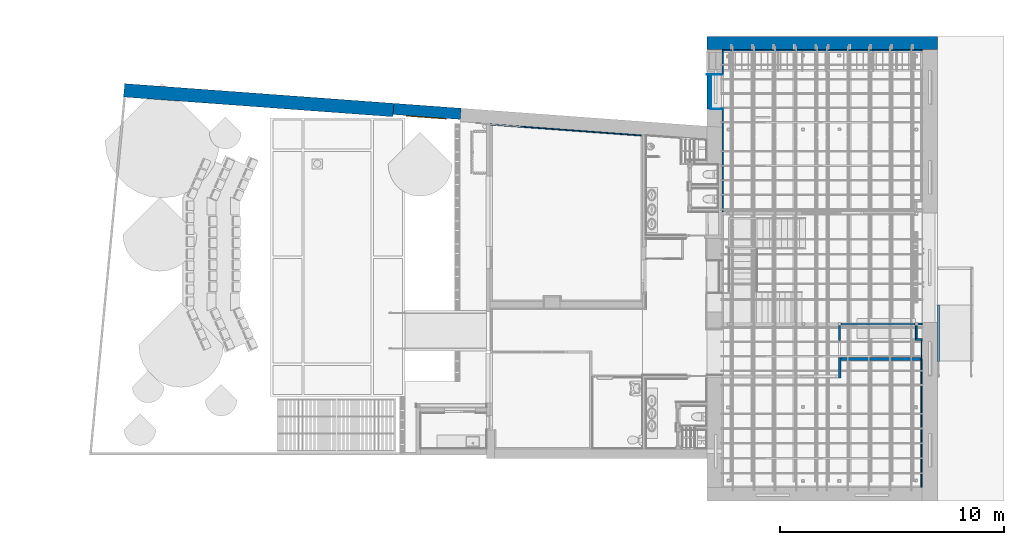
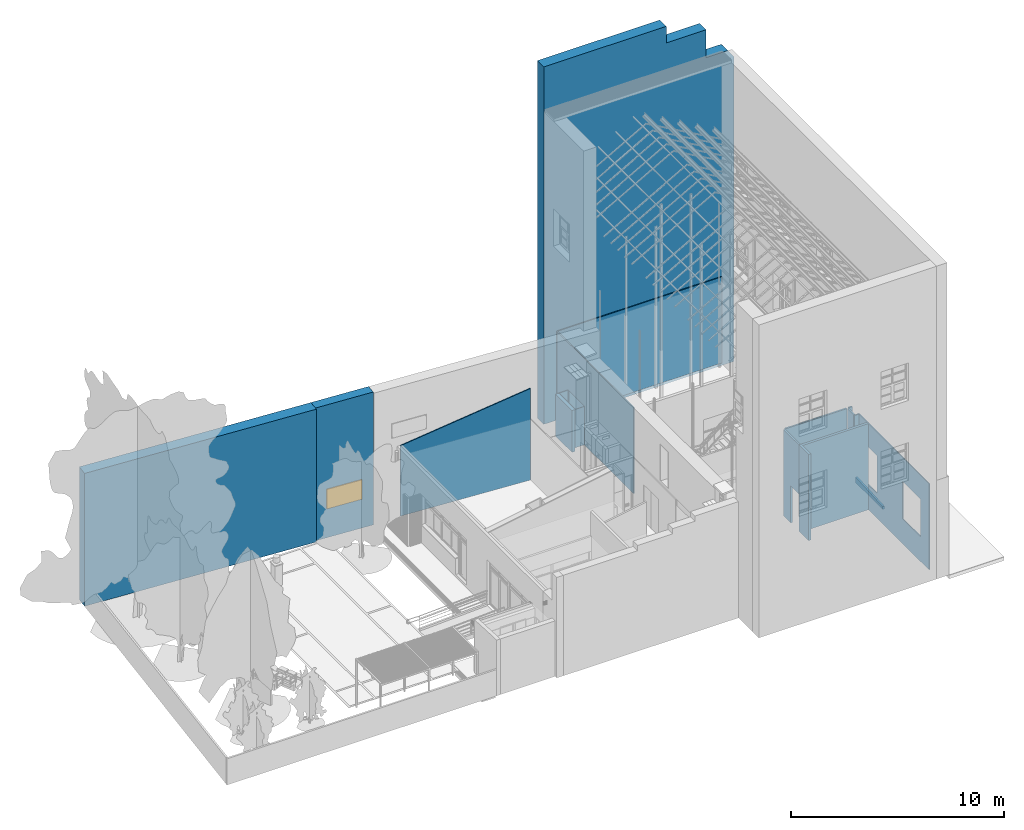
# One storey, part 40 of 75: 20 walls, 1 window, 8 openings.
"""IFC2X3 building model written with IfcOpenShell, lengths in metres."""

from ifc_helpers import new_model, entity, si_unit, converted_unit, derived_unit, direction, frame, frame_2d, origin, place, context, subcontext, project, spatial, polyline, rectangle, outline, extrude, clip, halfspace, bounded_halfspace, source, transform, mapped, material, material_list, layer, layer_set, layer_usage, type_object, type_shapes, element, fill, save


model = new_model("IFC2X3")

# Units and contexts
model_context = context("Model", 3, precision=1e-05, world=origin(), true_north=direction((6.12303176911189e-17, 1.0)))
body_context = subcontext(model_context, "Body", "Model", "MODEL_VIEW")
ifc_project = project(units=[si_unit("LENGTHUNIT", "METRE"), si_unit("AREAUNIT", "SQUARE_METRE"), si_unit("VOLUMEUNIT", "CUBIC_METRE"), converted_unit("PLANEANGLEUNIT", "DEGREE", entity("IfcRatioMeasure", 0.0174532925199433), si_unit("PLANEANGLEUNIT", "RADIAN"), dimensions=[0, 0, 0, 0, 0, 0, 0]), si_unit("MASSUNIT", "GRAM", prefix="KILO"), derived_unit("MASSDENSITYUNIT", [(si_unit("MASSUNIT", "GRAM", prefix="KILO"), 1), (si_unit("LENGTHUNIT", "METRE"), -3)]), derived_unit("MOMENTOFINERTIAUNIT", [(si_unit("LENGTHUNIT", "METRE"), 4)]), si_unit("TIMEUNIT", "SECOND"), si_unit("FREQUENCYUNIT", "HERTZ"), si_unit("THERMODYNAMICTEMPERATUREUNIT", "DEGREE_CELSIUS"), derived_unit("THERMALTRANSMITTANCEUNIT", [(si_unit("MASSUNIT", "GRAM", prefix="KILO"), 1), (si_unit("THERMODYNAMICTEMPERATUREUNIT", "KELVIN"), -1), (si_unit("TIMEUNIT", "SECOND"), -3)]), derived_unit("VOLUMETRICFLOWRATEUNIT", [(si_unit("LENGTHUNIT", "METRE"), 3), (si_unit("TIMEUNIT", "SECOND"), -1)]), si_unit("ELECTRICCURRENTUNIT", "AMPERE"), si_unit("ELECTRICVOLTAGEUNIT", "VOLT"), si_unit("POWERUNIT", "WATT"), si_unit("FORCEUNIT", "NEWTON", prefix="KILO"), si_unit("ILLUMINANCEUNIT", "LUX"), si_unit("LUMINOUSFLUXUNIT", "LUMEN"), si_unit("LUMINOUSINTENSITYUNIT", "CANDELA"), derived_unit("USERDEFINED", [(si_unit("MASSUNIT", "GRAM", prefix="KILO"), -1), (si_unit("LENGTHUNIT", "METRE"), -2), (si_unit("TIMEUNIT", "SECOND"), 3), (si_unit("LUMINOUSFLUXUNIT", "LUMEN"), 1)]), derived_unit("LINEARVELOCITYUNIT", [(si_unit("LENGTHUNIT", "METRE"), 1), (si_unit("TIMEUNIT", "SECOND"), -1)]), si_unit("PRESSUREUNIT", "PASCAL"), derived_unit("USERDEFINED", [(si_unit("LENGTHUNIT", "METRE"), -2), (si_unit("MASSUNIT", "GRAM", prefix="KILO"), 1), (si_unit("TIMEUNIT", "SECOND"), -2)]), derived_unit("LINEARFORCEUNIT", [(si_unit("MASSUNIT", "GRAM", prefix="KILO"), 1), (si_unit("LENGTHUNIT", "METRE"), 1), (si_unit("TIMEUNIT", "SECOND"), -2), (si_unit("LENGTHUNIT", "METRE"), -1)]), derived_unit("PLANARFORCEUNIT", [(si_unit("MASSUNIT", "GRAM", prefix="KILO"), 1), (si_unit("LENGTHUNIT", "METRE"), 1), (si_unit("TIMEUNIT", "SECOND"), -2), (si_unit("LENGTHUNIT", "METRE"), -2)])], contexts=[model_context])

# Site, building, storey
site_placement = place(None, origin())
site = spatial("IfcSite", under=ifc_project, at=site_placement, Name="Superficie", CompositionType="ELEMENT")
building_placement = place(site_placement, origin())
building = spatial("IfcBuilding", under=site, at=building_placement, Name="Telegestiones", CompositionType="ELEMENT")
storey_placement = place(building_placement, origin())
storey = spatial("IfcBuildingStorey", under=building, at=storey_placement, Name="Nivel 0_NPT", CompositionType="ELEMENT", Elevation=0.0)

# Wall
ifc_material_1 = material(Name="Muro por defecto")
ifc_layer_1 = layer(ifc_material_1, 0.6)
ifc_layer_set_1 = layer_set([ifc_layer_1], Name="Muro básico:ARQ-MU-EX-60-Gen")
ifc_layer_usage_1 = layer_usage(ifc_layer_set_1, "AXIS2", "NEGATIVE", 0.3)
wall_type_1 = type_object("IfcWallType", Name="Muro básico:ARQ-MU-EX-60-Gen", PredefinedType="STANDARD", material=ifc_layer_set_1)
wall_1_placement = place(storey_placement, frame((-20.6887632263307, 11.9310186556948, -0.2), z_axis=(0.0, 0.0, 1.0), x_axis=(0.99732797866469, -0.0730541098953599, 0.0)))
element("IfcWallStandardCase", 1, at=wall_1_placement, inside=storey, type_object=wall_type_1, material=ifc_layer_usage_1, Name="Muro básico:ARQ-MU-EX-60-Gen", ObjectType="Muro básico:ARQ-MU-EX-60-Gen", context=body_context, shape_type="SweptSolid", body=[
    extrude(outline(polyline([(-0.240000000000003, -7.21836923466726), (0.359999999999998, -7.21836923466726), (0.360000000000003, 4.83671755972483), (-0.239999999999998, 4.85002274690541), (-0.239999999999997, 4.74999816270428), (-0.240000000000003, -7.21836923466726)])), frame((4.8500227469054, -0.0599999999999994, 0.0), z_axis=(0.0, 0.0, 1.0), x_axis=(0.0, 1.0, 0.0)), (0.0, 0.0, 1.0), 7.6),
])

# Wall, openings
ifc_material_2 = material(Name="Albañilería expuesta")
ifc_layer_2 = layer(ifc_material_2, 0.12)
ifc_layer_3 = layer(ifc_material_1, 0.48)
ifc_layer_set_2 = layer_set([ifc_layer_2, ifc_layer_3], Name="Muro básico:ARQ-MU-EX-60-Lad")
ifc_layer_usage_2 = layer_usage(ifc_layer_set_2, "AXIS2", "NEGATIVE", 0.3)
wall_type_2 = type_object("IfcWallType", Name="Muro básico:ARQ-MU-EX-60-Lad", PredefinedType="STANDARD", material=ifc_layer_set_2)
wall_2_placement = place(storey_placement, frame((5.35428977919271, 14.0436072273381, -0.199999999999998)))
wall_2 = element("IfcWallStandardCase", 2, at=wall_2_placement, inside=storey, type_object=wall_type_2, material=ifc_layer_usage_2, Name="Muro básico:ARQ-MU-EX-60-Lad", ObjectType="Muro básico:ARQ-MU-EX-60-Lad", context=body_context, shape_type="Clipping", body=[
    clip(clip(extrude(rectangle(XDim=10.2905228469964, YDim=0.599999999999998, at=frame_2d((5.1452614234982, 0.0), x_axis=(-1.0, 0.0))), origin(), (0.0, 0.0, 1.0), 20.45), halfspace(frame((8.78052284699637, 0.0, 19.5), z_axis=(0.404163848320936, 0.0, 0.914686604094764), x_axis=(0.0, 1.0, 0.0)), False)), halfspace(frame((9.95052284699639, 0.0, 17.9), z_axis=(0.807206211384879, 0.0, 0.590269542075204), x_axis=(0.0, 1.0, 0.0)), False)),
])
opening_1_placement = place(wall_2_placement, origin())
element("IfcOpeningElement", 3, at=opening_1_placement, cuts=wall_2, Name="Muro básico:ARQ-MU-EX-60-Lad", ObjectType="Opening", context=body_context, shape_type="SweptSolid", body=[
    extrude(outline(polyline([(-0.890920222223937, -0.314810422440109), (1.09122508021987, -0.31481042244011), (-0.200304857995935, 0.629620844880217), (-0.890920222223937, -0.314810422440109)])), frame((9.17052284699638, 0.299999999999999, 18.4333333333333), z_axis=(0.0, -1.0, 0.0), x_axis=(-0.590269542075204, 0.0, 0.807206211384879)), (0.0, 0.0, 1.0), 0.6),
])
opening_2_placement = place(wall_2_placement, origin())
element("IfcOpeningElement", 4, at=opening_2_placement, cuts=wall_2, Name="Muro básico:ARQ-MU-EX-60-Lad", ObjectType="Opening", context=body_context, shape_type="SweptSolid", body=[
    extrude(outline(polyline([(-1.43903601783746, -0.289650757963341), (0.911495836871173, -0.28965075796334), (0.527540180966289, 0.579301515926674), (-1.43903601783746, -0.289650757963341)])), frame((7.34718951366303, 0.299999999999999, 19.8166666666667), z_axis=(0.0, -1.0, 0.0), x_axis=(-0.914686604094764, 0.0, 0.404163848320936)), (0.0, 0.0, 1.0), 0.6),
])

# Walls
ifc_layer_4 = layer(ifc_material_2, 0.17)
ifc_layer_set_3 = layer_set([ifc_layer_4], Name="Muro básico:ARQ-MU-EX-17-Lad")
ifc_layer_usage_3 = layer_usage(ifc_layer_set_3, "AXIS2", "NEGATIVE", 0.085)
wall_type_3 = type_object("IfcWallType", Name="Muro básico:ARQ-MU-EX-17-Lad", PredefinedType="STANDARD", material=ifc_layer_set_3)
wall_3_placement = place(storey_placement, frame((5.43928977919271, 12.641107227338, -0.2), z_axis=(0.0, 0.0, 1.0), x_axis=(0.0, -1.0, 0.0)))
element("IfcWallStandardCase", 5, at=wall_3_placement, inside=storey, type_object=wall_type_3, material=ifc_layer_usage_3, Name="Muro básico:ARQ-MU-EX-17-Lad", ObjectType="Muro básico:ARQ-MU-EX-17-Lad", context=body_context, shape_type="SweptSolid", body=[
    extrude(rectangle(XDim=1.54500000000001, YDim=0.17, at=frame_2d((0.772500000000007, -1.38777878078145e-17), x_axis=(-1.0, 0.0))), origin(), (0.0, 0.0, 1.0), 2.4),
])
ifc_layer_5 = layer(ifc_material_1, 0.1)
ifc_layer_set_4 = layer_set([ifc_layer_5], Name="Muro básico:ARQ-MU-EX-10-Gen")
ifc_layer_usage_4 = layer_usage(ifc_layer_set_4, "AXIS2", "NEGATIVE", 0.05)
wall_type_4 = type_object("IfcWallType", Name="Muro básico:ARQ-MU-EX-10-Gen", PredefinedType="STANDARD", material=ifc_layer_set_4)
wall_4_placement = place(storey_placement, frame((15.6948126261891, -0.193867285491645, -0.22), z_axis=(0.0, 0.0, 1.0), x_axis=(0.0, 1.0, 0.0)))
element("IfcWallStandardCase", 6, at=wall_4_placement, inside=storey, type_object=wall_type_4, material=ifc_layer_usage_4, Name="Muro básico:ARQ-MU-EX-10-Gen", ObjectType="Muro básico:ARQ-MU-EX-10-Gen", context=body_context, shape_type="Clipping", body=[
    clip(extrude(rectangle(XDim=2.52999999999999, YDim=0.0999999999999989, at=frame_2d((1.265, 4.9960036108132e-16), x_axis=(-1.0, 0.0))), origin(), (0.0, 0.0, 1.0), 0.32), halfspace(frame((0.0, -0.050000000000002, 0.16), z_axis=(-0.0631150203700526, 0.0, 0.998006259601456), x_axis=(0.0, 1.0, 0.0)), False)),
])
ifc_material_3 = material(Name="Placa yeso entera")
ifc_layer_6 = layer(ifc_material_3, 0.015)
ifc_layer_7 = layer(ifc_material_3, 0.015)
ifc_material_4 = material(Name="Estructura de Hierro Galvanizado")
ifc_layer_8 = layer(ifc_material_4, 0.07)
ifc_layer_9 = layer(ifc_material_3, 0.015)
ifc_layer_10 = layer(ifc_material_3, 0.015)
ifc_layer_set_5 = layer_set([ifc_layer_6, ifc_layer_7, ifc_layer_8, ifc_layer_9, ifc_layer_10], Name="Muro básico:ARQ-MU-IN-13-Ye-T4")
ifc_layer_usage_5 = layer_usage(ifc_layer_set_5, "AXIS2", "NEGATIVE", 0.065)
wall_type_5 = type_object("IfcWallType", Name="Muro básico:ARQ-MU-IN-13-Ye-T4", PredefinedType="STANDARD", material=ifc_layer_set_5)
wall_5_placement = place(storey_placement, frame((11.2888493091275, -0.00139137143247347, -0.0199999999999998), z_axis=(0.0, 0.0, 1.0), x_axis=(0.0, -1.0, 0.0)))
element("IfcWallStandardCase", 7, at=wall_5_placement, inside=storey, type_object=wall_type_5, material=ifc_layer_usage_5, Name="Muro básico:ARQ-MU-IN-13-Ye-T4", ObjectType="Muro básico:ARQ-MU-IN-13-Ye-T4", context=body_context, shape_type="SweptSolid", body=[
    extrude(rectangle(XDim=0.910071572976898, YDim=0.130000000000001, at=frame_2d((0.455035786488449, 8.32667268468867e-17), x_axis=(-1.0, 0.0))), origin(), (0.0, 0.0, 1.0), 4.93),
])
ifc_layer_usage_6 = layer_usage(ifc_layer_set_5, "AXIS2", "NEGATIVE", 0.065)
wall_6_placement = place(storey_placement, frame((11.3538493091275, -0.0663913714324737, -0.0199999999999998)))
element("IfcWallStandardCase", 8, at=wall_6_placement, inside=storey, type_object=wall_type_5, material=ifc_layer_usage_6, Name="Muro básico:ARQ-MU-IN-13-Ye-T4", ObjectType="Muro básico:ARQ-MU-IN-13-Ye-T4", context=body_context, shape_type="SweptSolid", body=[
    extrude(rectangle(XDim=3.56096331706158, YDim=0.13, at=frame_2d((1.78048165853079, 6.93889390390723e-18), x_axis=(-1.0, 0.0))), origin(), (0.0, 0.0, 1.0), 4.93),
])

# Wall, opening
ifc_layer_11 = layer(ifc_material_3, 0.01)
ifc_layer_12 = layer(ifc_material_4, 0.07)
ifc_layer_13 = layer(ifc_material_3, 0.01)
ifc_layer_set_6 = layer_set([ifc_layer_11, ifc_layer_12, ifc_layer_13], Name="Muro básico:ARQ-MU-IN-9-Ye-T2")
ifc_layer_usage_7 = layer_usage(ifc_layer_set_6, "AXIS2", "NEGATIVE", 0.045)
wall_type_6 = type_object("IfcWallType", Name="Muro básico:ARQ-MU-IN-9-Ye-T2", PredefinedType="STANDARD", material=ifc_layer_set_6)
wall_7_placement = place(storey_placement, frame((11.2688493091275, -0.00139137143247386, -0.0199999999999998), z_axis=(0.0, 0.0, 1.0), x_axis=(0.0, 1.0, 0.0)))
wall_7 = element("IfcWallStandardCase", 9, at=wall_7_placement, inside=storey, type_object=wall_type_6, material=ifc_layer_usage_7, Name="Muro básico:ARQ-MU-IN-9-Ye-T2", ObjectType="Muro básico:ARQ-MU-IN-9-Ye-T2", context=body_context, shape_type="SweptSolid", body=[
    extrude(rectangle(XDim=1.43599859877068, YDim=0.0900000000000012, at=frame_2d((0.717999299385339, 0.0), x_axis=(-1.0, 0.0))), origin(), (0.0, 0.0, 1.0), 4.93),
])
opening_3_placement = place(wall_7_placement, origin())
element("IfcOpeningElement", 10, at=opening_3_placement, cuts=wall_7, Name="Muro básico:ARQ-MU-IN-9-Ye-T2", ObjectType="Opening", context=body_context, shape_type="SweptSolid", body=[
    extrude(rectangle(XDim=2.12, YDim=0.828639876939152, at=frame_2d((2.22044604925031e-16, 2.22044604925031e-16), x_axis=(1.0, 0.0))), frame((0.349319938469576, 0.0450000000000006, 1.06), z_axis=(0.0, -1.0, 0.0), x_axis=(0.0, 0.0, -1.0)), (0.0, 0.0, 1.0), 0.0900000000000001),
])

# Walls
ifc_layer_usage_8 = layer_usage(ifc_layer_set_6, "AXIS2", "NEGATIVE", 0.045)
wall_8_placement = place(storey_placement, frame((11.3338126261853, 1.4845940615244, 2.1)))
element("IfcWallStandardCase", 11, at=wall_8_placement, inside=storey, type_object=wall_type_6, material=ifc_layer_usage_8, Name="Muro básico:ARQ-MU-IN-9-Ye-T2", ObjectType="Muro básico:ARQ-MU-IN-9-Ye-T2", context=body_context, shape_type="SweptSolid", body=[
    extrude(rectangle(XDim=3.32105815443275, YDim=0.0900000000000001, at=frame_2d((1.66052907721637, -6.59194920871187e-17), x_axis=(-1.0, 0.0))), origin(), (0.0, 0.0, 1.0), 2.81),
])
ifc_layer_14 = layer(ifc_material_3, 0.01)
ifc_layer_15 = layer(ifc_material_4, 0.07)
ifc_layer_set_7 = layer_set([ifc_layer_14, ifc_layer_15], Name="Muro básico:ARQ-MU-IN-8-Ye-T3")
ifc_layer_usage_9 = layer_usage(ifc_layer_set_7, "AXIS2", "POSITIVE", -0.04)
wall_type_7 = type_object("IfcWallType", Name="Muro básico:ARQ-MU-IN-8-Ye-T3", PredefinedType="STANDARD", material=ifc_layer_set_7)
wall_9_placement = place(storey_placement, frame((14.7048547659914, 1.42459406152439, -0.0199999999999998), z_axis=(0.0, 0.0, 1.0), x_axis=(0.0, -1.0, 0.0)))
element("IfcWallStandardCase", 12, at=wall_9_placement, inside=storey, type_object=wall_type_7, material=ifc_layer_usage_9, Name="Muro básico:ARQ-MU-IN-8-Ye-T3", ObjectType="Muro básico:ARQ-MU-IN-8-Ye-T3", context=body_context, shape_type="SweptSolid", body=[
    extrude(rectangle(XDim=0.582345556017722, YDim=0.0799999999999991, at=frame_2d((0.291172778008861, 0.0), x_axis=(-1.0, 0.0))), origin(), (0.0, 0.0, 1.0), 4.93),
])
ifc_layer_usage_10 = layer_usage(ifc_layer_set_7, "AXIS2", "POSITIVE", -0.04)
wall_10_placement = place(storey_placement, frame((14.6648547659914, 0.802248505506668, -0.0199999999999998)))
element("IfcWallStandardCase", 13, at=wall_10_placement, inside=storey, type_object=wall_type_7, material=ifc_layer_usage_10, Name="Muro básico:ARQ-MU-IN-8-Ye-T3", ObjectType="Muro básico:ARQ-MU-IN-8-Ye-T3", context=body_context, shape_type="SweptSolid", body=[
    extrude(rectangle(XDim=0.299957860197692, YDim=0.08, at=frame_2d((0.149978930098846, 6.93889390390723e-18), x_axis=(-1.0, 0.0))), origin(), (0.0, 0.0, 1.0), 4.93),
])
ifc_layer_usage_11 = layer_usage(ifc_layer_set_7, "AXIS2", "NEGATIVE", 0.04)
wall_11_placement = place(storey_placement, frame((14.7648707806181, 1.49210722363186, -0.0199999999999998)))
element("IfcWallStandardCase", 14, at=wall_11_placement, inside=storey, type_object=wall_type_7, material=ifc_layer_usage_11, Name="Muro básico:ARQ-MU-IN-8-Ye-T3", ObjectType="Muro básico:ARQ-MU-IN-8-Ye-T3", context=body_context, shape_type="SweptSolid", body=[
    extrude(rectangle(XDim=0.19994184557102, YDim=0.0800000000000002, at=frame_2d((0.0999709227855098, -6.93889390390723e-18), x_axis=(-1.0, 0.0))), origin(), (0.0, 0.0, 1.0), 4.93),
])
ifc_layer_16 = layer(ifc_material_3, 0.012)
ifc_layer_17 = layer(ifc_material_4, 0.038)
ifc_layer_set_8 = layer_set([ifc_layer_16, ifc_layer_17], Name="Muro básico:ARQ-RE-IN-5-Ye-M2")
ifc_layer_usage_12 = layer_usage(ifc_layer_set_8, "AXIS2", "NEGATIVE", 0.025)
wall_type_8 = type_object("IfcWallType", Name="Muro básico:ARQ-RE-IN-5-Ye-M2", PredefinedType="STANDARD", material=ifc_layer_set_8)
wall_12_placement = place(storey_placement, frame((2.41923197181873, 9.91300686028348, -0.0199999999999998), z_axis=(0.0, 0.0, 1.0), x_axis=(-0.997331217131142, 0.0730098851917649, 0.0)))
element("IfcWallStandardCase", 15, at=wall_12_placement, inside=storey, type_object=wall_type_8, material=ifc_layer_usage_12, Name="Muro básico:ARQ-RE-IN-5-Ye-M2", ObjectType="Muro básico:ARQ-RE-IN-5-Ye-M2", context=body_context, shape_type="Clipping", body=[
    clip(extrude(outline(polyline([(6.77432379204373, -0.0249999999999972), (6.77066352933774, 0.0250000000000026), (6.67039593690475, 0.0250000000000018), (0.0, 0.0250000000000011), (0.0036602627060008, -0.0249999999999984), (6.77432379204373, -0.0249999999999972)])), origin(), (0.0, 0.0, 1.0), 5.24646693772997), bounded_halfspace(frame((0.00366026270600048, -0.0249999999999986, 5.24646693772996), z_axis=(0.176680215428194, 0.0129339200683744, 0.984183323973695), x_axis=(-0.0730098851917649, 0.997331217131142, 0.0)), False, frame((0.00366026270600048, -0.0249999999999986, 5.24646693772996)), polyline([(0.0, 0.0), (6.77066352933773, 0.0), (6.76700326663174, 0.0499999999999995), (6.66673567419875, 0.0500000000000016), (-0.00366026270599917, 0.0499999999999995), (0.0, 0.0)]))),
])

# Wall, openings
ifc_layer_usage_13 = layer_usage(ifc_layer_set_8, "AXIS2", "NEGATIVE", 0.025)
wall_13_placement = place(storey_placement, frame((14.9398126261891, -5.80636712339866, -0.0199999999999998), z_axis=(0.0, 0.0, 1.0), x_axis=(0.0, 1.0, 0.0)))
wall_13 = element("IfcWallStandardCase", 16, at=wall_13_placement, inside=storey, type_object=wall_type_8, material=ifc_layer_usage_13, Name="Muro básico:ARQ-RE-IN-5-Ye-M2", ObjectType="Muro básico:ARQ-RE-IN-5-Ye-M2", context=body_context, shape_type="SweptSolid", body=[
    extrude(rectangle(XDim=5.73997575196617, YDim=0.0500000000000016, at=frame_2d((2.86998787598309, 6.93889390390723e-17), x_axis=(-1.0, 0.0))), origin(), (0.0, 0.0, 1.0), 4.93),
])
opening_4_placement = place(wall_13_placement, origin())
element("IfcOpeningElement", 17, at=opening_4_placement, cuts=wall_13, Name="Muro básico:ARQ-RE-IN-5-Ye-M2", ObjectType="Opening", context=body_context, shape_type="SweptSolid", body=[
    extrude(rectangle(XDim=2.15, YDim=1.65000000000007, at=frame_2d((1.11022302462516e-16, 0.0), x_axis=(1.0, 0.0))), frame((1.64497435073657, 0.0250000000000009, 2.49499999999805), z_axis=(0.0, -1.0, 0.0), x_axis=(0.0, 0.0, 1.0)), (0.0, 0.0, 1.0), 0.05),
])
opening_5_placement = place(wall_13_placement, origin())
element("IfcOpeningElement", 18, at=opening_5_placement, cuts=wall_13, Name="Muro básico:ARQ-RE-IN-5-Ye-M2", ObjectType="Opening", context=body_context, shape_type="SweptSolid", body=[
    extrude(rectangle(XDim=2.15, YDim=0.840001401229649, at=frame_2d((-6.66133814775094e-16, 0.0), x_axis=(1.0, 0.0))), frame((5.31997505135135, 0.0250000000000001, 2.49499999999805), z_axis=(0.0, -1.0, 0.0), x_axis=(0.0, 0.0, 1.0)), (0.0, 0.0, 1.0), 0.05),
])

# Wall, opening
ifc_layer_usage_14 = layer_usage(ifc_layer_set_8, "AXIS2", "NEGATIVE", 0.025)
wall_14_placement = place(storey_placement, frame((14.9398126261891, -0.0663913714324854, -0.0199999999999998), z_axis=(0.0, 0.0, 1.0), x_axis=(0.0, 1.0, 0.0)))
wall_14 = element("IfcWallStandardCase", 19, at=wall_14_placement, inside=storey, type_object=wall_type_8, material=ifc_layer_usage_14, Name="Muro básico:ARQ-RE-IN-5-Ye-M2", ObjectType="Muro básico:ARQ-RE-IN-5-Ye-M2", context=body_context, shape_type="SweptSolid", body=[
    extrude(rectangle(XDim=0.828639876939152, YDim=0.0500000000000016, at=frame_2d((0.414319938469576, 8.84708972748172e-17), x_axis=(-1.0, 0.0))), origin(), (0.0, 0.0, 1.0), 4.93),
])
opening_6_placement = place(wall_14_placement, origin())
element("IfcOpeningElement", 20, at=opening_6_placement, cuts=wall_14, Name="Muro básico:ARQ-RE-IN-5-Ye-M2", ObjectType="Opening", context=body_context, shape_type="SweptSolid", body=[
    extrude(rectangle(XDim=2.15, YDim=0.809998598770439, at=frame_2d((-2.77555756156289e-17, -2.22044604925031e-16), x_axis=(0.0, 1.0))), frame((0.404999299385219, 0.0250000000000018, 2.49499999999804), z_axis=(0.0, -1.0, 0.0), x_axis=(1.0, 0.0, 0.0)), (0.0, 0.0, 1.0), 0.05),
])

# Wall
ifc_layer_usage_15 = layer_usage(ifc_layer_set_8, "AXIS2", "POSITIVE", -0.025)
wall_15_placement = place(storey_placement, frame((6.03428977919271, 13.7186072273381, -0.0199999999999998)))
element("IfcWallStandardCase", 21, at=wall_15_placement, inside=storey, type_object=wall_type_8, material=ifc_layer_usage_15, Name="Muro básico:ARQ-RE-IN-5-Ye-M2", ObjectType="Muro básico:ARQ-RE-IN-5-Ye-M2", context=body_context, shape_type="SweptSolid", body=[
    extrude(rectangle(XDim=8.93052284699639, YDim=0.0500000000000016, at=frame_2d((4.46526142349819, 0.0), x_axis=(-1.0, 0.0))), origin(), (0.0, 0.0, 1.0), 4.93),
])

# Wall, opening
ifc_layer_usage_16 = layer_usage(ifc_layer_set_8, "AXIS2", "NEGATIVE", 0.025)
wall_16_placement = place(storey_placement, frame((6.05928977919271, 13.6936072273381, -0.0199999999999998), z_axis=(0.0, 0.0, 1.0), x_axis=(0.0, -1.0, 0.0)))
wall_16 = element("IfcWallStandardCase", 22, at=wall_16_placement, inside=storey, type_object=wall_type_8, material=ifc_layer_usage_16, Name="Muro básico:ARQ-RE-IN-5-Ye-M2", ObjectType="Muro básico:ARQ-RE-IN-5-Ye-M2", context=body_context, shape_type="SweptSolid", body=[
    extrude(rectangle(XDim=7.17799999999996, YDim=0.0499999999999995, at=frame_2d((3.58899999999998, 9.36750677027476e-17), x_axis=(-1.0, 0.0))), origin(), (0.0, 0.0, 1.0), 4.93),
])
opening_7_placement = place(wall_16_placement, origin())
element("IfcOpeningElement", 23, at=opening_7_placement, cuts=wall_16, Name="Muro básico:ARQ-RE-IN-5-Ye-M2", ObjectType="Opening", context=body_context, shape_type="SweptSolid", body=[
    extrude(rectangle(XDim=2.22, YDim=1.54500000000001, at=frame_2d((1.11022302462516e-15, 0.0), x_axis=(0.0, 1.0))), frame((1.82500000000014, 0.0249999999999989, 1.11), z_axis=(0.0, -1.0, 0.0), x_axis=(1.0, 0.0, 0.0)), (0.0, 0.0, 1.0), 0.05),
])

# Walls
ifc_layer_18 = layer(ifc_material_3, 0.012)
ifc_layer_19 = layer(ifc_material_4, 0.013)
ifc_layer_set_9 = layer_set([ifc_layer_18, ifc_layer_19], Name="Muro básico:ARQ-RE-IN-2-Ye-M4")
ifc_layer_usage_17 = layer_usage(ifc_layer_set_9, "AXIS2", "POSITIVE", -0.0125)
wall_type_9 = type_object("IfcWallType", Name="Muro básico:ARQ-RE-IN-2-Ye-M4", PredefinedType="STANDARD", material=ifc_layer_set_9)
wall_17_placement = place(storey_placement, frame((5.53678977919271, 11.0961072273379, 0.0), z_axis=(0.0, 0.0, 1.0), x_axis=(0.0, 1.0, 0.0)))
element("IfcWallStandardCase", 24, at=wall_17_placement, inside=storey, type_object=wall_type_9, material=ifc_layer_usage_17, Name="Muro básico:ARQ-RE-IN-2-Ye-M4", ObjectType="Muro básico:ARQ-RE-IN-2-Ye-M4", context=body_context, shape_type="Clipping", body=[
    clip(extrude(rectangle(XDim=1.53250000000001, YDim=0.0250000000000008, at=frame_2d((0.766250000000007, -2.51534904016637e-17), x_axis=(-1.0, 0.0))), origin(), (0.0, 0.0, 1.0), 2.2), bounded_halfspace(frame((1.53250000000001, -0.0124999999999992, 0.0), z_axis=(0.0, 0.0, 1.0), x_axis=(0.0, 1.0, 0.0)), True, frame((1.53250000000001, -0.0124999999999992, 0.0), z_axis=(0.0, 0.0, 1.0), x_axis=(0.0, 1.0, 0.0)), polyline([(0.0, 0.0), (0.0249999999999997, 0.0), (0.0250000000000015, 1.53250000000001), (0.0, 1.53250000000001), (0.0, 0.0)]))),
])
ifc_layer_usage_18 = layer_usage(ifc_layer_set_9, "AXIS2", "POSITIVE", -0.0125)
wall_18_placement = place(storey_placement, frame((5.35428977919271, 12.641107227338, -0.0199999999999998)))
element("IfcWallStandardCase", 25, at=wall_18_placement, inside=storey, type_object=wall_type_9, material=ifc_layer_usage_18, Name="Muro básico:ARQ-RE-IN-2-Ye-M4", ObjectType="Muro básico:ARQ-RE-IN-2-Ye-M4", context=body_context, shape_type="SweptSolid", body=[
    extrude(rectangle(XDim=0.680000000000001, YDim=0.0249999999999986, at=frame_2d((0.340000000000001, 2.64545330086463e-16), x_axis=(-1.0, 0.0))), origin(), (0.0, 0.0, 1.0), 2.22),
])
ifc_layer_usage_19 = layer_usage(ifc_layer_set_9, "AXIS2", "NEGATIVE", 0.0125)
wall_19_placement = place(storey_placement, frame((5.52428977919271, 11.0961072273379, 0.0)))
element("IfcWallStandardCase", 26, at=wall_19_placement, inside=storey, type_object=wall_type_9, material=ifc_layer_usage_19, Name="Muro básico:ARQ-RE-IN-2-Ye-M4", ObjectType="Muro básico:ARQ-RE-IN-2-Ye-M4", context=body_context, shape_type="Clipping", body=[
    clip(extrude(outline(polyline([(0.509999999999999, -0.0125000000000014), (0.559999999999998, -0.0125000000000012), (0.559999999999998, 0.0124999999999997), (0.0, 0.0124999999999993), (0.0, 0.0), (0.509999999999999, 0.0), (0.509999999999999, -0.0125000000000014)])), origin(), (0.0, 0.0, 1.0), 2.2), bounded_halfspace(frame((0.559999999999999, -0.0124999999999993, 0.0), z_axis=(0.0, 0.0, 1.0), x_axis=(-1.0, 0.0, 0.0)), True, frame((0.559999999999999, -0.0124999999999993, 0.0), z_axis=(0.0, 0.0, 1.0), x_axis=(-1.0, 0.0, 0.0)), polyline([(0.0, 0.0), (0.0, -0.0250000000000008), (0.559999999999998, -0.025000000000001), (0.559999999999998, -0.0125000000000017), (0.0499999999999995, -0.0125000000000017), (0.0499999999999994, 0.0), (0.0, 0.0)]))),
])

# Wall, opening, window
ifc_layer_20 = layer(ifc_material_1, 0.5)
ifc_layer_set_10 = layer_set([ifc_layer_20], Name="Muro básico:ARQ-MU-EX-50-Gen")
ifc_layer_usage_20 = layer_usage(ifc_layer_set_10, "AXIS2", "NEGATIVE", 0.25)
wall_type_10 = type_object("IfcWallType", Name="Muro básico:ARQ-MU-EX-50-Gen", PredefinedType="STANDARD", material=ifc_layer_set_10)
wall_20_placement = place(storey_placement, frame((-8.64896554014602, 11.0992394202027, -0.2), z_axis=(0.0, 0.0, 1.0), x_axis=(0.997331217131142, -0.0730098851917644, 0.0)))
wall_20 = element("IfcWallStandardCase", 27, at=wall_20_placement, inside=storey, type_object=wall_type_10, material=ifc_layer_usage_20, Name="Muro básico:ARQ-MU-EX-50-Gen", ObjectType="Muro básico:ARQ-MU-EX-50-Gen", context=body_context, shape_type="SweptSolid", body=[
    extrude(rectangle(XDim=3.00816689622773, YDim=0.499999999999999, at=frame_2d((1.50408344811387, -3.19189119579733e-16), x_axis=(-1.0, 0.0))), origin(), (0.0, 0.0, 1.0), 7.6),
])
opening_8_placement = place(wall_20_placement, frame((2.39816689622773, 0.25, 1.68)))
opening_8 = element("IfcOpeningElement", 28, at=opening_8_placement, cuts=wall_20, Name="ARQ-VE-EX-Rejilla:182x111:1", ObjectType="Opening", context=body_context, shape_type="SweptSolid", body=[
    extrude(rectangle(XDim=1.11, YDim=1.82, at=frame_2d((0.554999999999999, 0.91), x_axis=(1.0, 0.0))), frame((0.0, 0.0, 0.0), z_axis=(0.0, -1.0, 0.0), x_axis=(0.0, 0.0, 1.0)), (0.0, 0.0, 1.0), 0.5),
])
ifc_material_5 = material(Name="Revestimiento de metal")
ifc_material_6 = material(Name="Acero")
ifc_material_list_1 = material_list([ifc_material_5, ifc_material_5, ifc_material_5, ifc_material_5, ifc_material_6, ifc_material_6, ifc_material_6, ifc_material_6, ifc_material_6, ifc_material_6])
ifc_material_list_2 = material_list([ifc_material_5, ifc_material_5, ifc_material_5, ifc_material_5, ifc_material_6, ifc_material_6, ifc_material_6, ifc_material_6, ifc_material_6, ifc_material_6])
window_style = type_object("IfcWindowStyle", Name="ARQ-VE-EX-Rejilla:182x111", ConstructionType="NOTDEFINED", OperationType="NOTDEFINED", ParameterTakesPrecedence=False, Sizeable=False, material=ifc_material_list_2)
shared_shape = source(origin(), body_context, "Body", "SweptSolid", [
    extrude(rectangle(XDim=0.00499999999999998, YDim=0.834999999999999, at=frame_2d((1.69135538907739e-17, 0.0), x_axis=(1.0, 0.0))), frame((0.477500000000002, 0.53950000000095, 0.570000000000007), z_axis=(0.0, 0.0, 1.0), x_axis=(0.0, 1.0, 0.0)), (0.0, 0.0, 1.0), 0.479999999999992),
    extrude(rectangle(XDim=0.00499999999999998, YDim=0.834999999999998, at=frame_2d((1.69135538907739e-17, 0.0), x_axis=(1.0, 0.0))), frame((0.477500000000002, 0.53950000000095, 0.0600000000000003), z_axis=(0.0, 0.0, 1.0), x_axis=(0.0, 1.0, 0.0)), (0.0, 0.0, 1.0), 0.480000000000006),
    extrude(rectangle(XDim=0.00499999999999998, YDim=0.835, at=frame_2d((-1.69135538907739e-17, 2.77555756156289e-17), x_axis=(1.0, 0.0))), frame((1.3425, 0.539500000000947, 0.0600000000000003), z_axis=(0.0, 0.0, 1.0), x_axis=(0.0, 1.0, 0.0)), (0.0, 0.0, 1.0), 0.480000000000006),
    extrude(rectangle(XDim=0.00499999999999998, YDim=0.835000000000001, at=frame_2d((-1.69135538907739e-17, -2.77555756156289e-17), x_axis=(1.0, 0.0))), frame((1.3425, 0.539500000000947, 0.570000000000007), z_axis=(0.0, 0.0, 1.0), x_axis=(0.0, 1.0, 0.0)), (0.0, 0.0, 1.0), 0.479999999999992),
    extrude(outline(polyline([(0.0149999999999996, -0.0150000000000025), (0.850000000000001, -0.0150000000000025), (0.850000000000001, 0.0149999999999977), (0.0149999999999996, 0.0149999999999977), (0.0149999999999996, 0.495000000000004), (-0.0150000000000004, 0.495000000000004), (-0.0150000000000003, 0.0149999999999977), (-0.85, 0.0149999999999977), (-0.85, -0.0150000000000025), (-0.0150000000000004, -0.0150000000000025), (-0.0150000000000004, -0.494999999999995), (0.0149999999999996, -0.494999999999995), (0.0149999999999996, -0.0150000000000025)])), frame((0.910000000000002, 0.537000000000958, 0.555000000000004), z_axis=(0.0, 1.0, 0.0), x_axis=(1.0, 0.0, 0.0)), (0.0, 0.0, 1.0), 0.00500000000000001),
    extrude(outline(polyline([(-0.91, -0.554999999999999), (0.91, -0.554999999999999), (0.91, 0.554999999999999), (-0.91, 0.554999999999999), (-0.91, -0.554999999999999)]), holes=[polyline([(-0.867999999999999, -0.512999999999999), (-0.867999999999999, 0.512999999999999), (0.868000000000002, 0.512999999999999), (0.868000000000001, -0.512999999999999), (-0.867999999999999, -0.512999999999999)])]), frame((0.910000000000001, 0.500000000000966, 0.554999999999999), z_axis=(0.0, 1.0, 0.0), x_axis=(1.0, 0.0, 0.0)), (0.0, 0.0, 1.0), 0.042),
    extrude(outline(polyline([(-0.00766666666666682, -0.0103333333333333), (-0.00266666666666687, -0.0103333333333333), (-0.00266666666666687, 0.0026666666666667), (0.0103333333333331, 0.0026666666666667), (0.0103333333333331, 0.00766666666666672), (-0.00766666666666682, 0.00766666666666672), (-0.00766666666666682, -0.0103333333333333)])), frame((0.0600000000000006, 0.534333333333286, 1.06033333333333), z_axis=(1.0, 0.0, 0.0), x_axis=(0.0, 0.0, -1.0)), (0.0, 0.0, 1.0), 1.7),
    extrude(outline(polyline([(-0.0103333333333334, -0.00766666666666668), (0.00766666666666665, -0.00766666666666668), (0.00766666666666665, 0.0103333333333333), (0.00266666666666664, 0.0103333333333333), (0.00266666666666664, -0.00266666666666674), (-0.0103333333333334, -0.00266666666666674), (-0.0103333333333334, -0.00766666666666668)])), frame((0.0600000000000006, 0.534333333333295, 0.049666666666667), z_axis=(1.0, 0.0, 0.0), x_axis=(0.0, 1.0, 0.0)), (0.0, 0.0, 1.0), 1.7),
    extrude(outline(polyline([(-0.00766666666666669, -0.00766666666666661), (0.0103333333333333, -0.00766666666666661), (0.0103333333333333, -0.00266666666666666), (-0.00266666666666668, -0.00266666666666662), (-0.00266666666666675, 0.0103333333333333), (-0.00766666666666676, 0.0103333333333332), (-0.00766666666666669, -0.00766666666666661)])), frame((0.0496666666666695, 0.53433333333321, 0.0600000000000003), z_axis=(0.0, 0.0, 1.0), x_axis=(0.0, -1.0, 0.0)), (0.0, 0.0, 1.0), 0.989999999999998),
    extrude(outline(polyline([(-0.00766666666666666, -0.00766666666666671), (0.010333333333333, -0.00766666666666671), (0.010333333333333, -0.00266666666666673), (-0.00266666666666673, -0.00266666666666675), (-0.00266666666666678, 0.0103333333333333), (-0.00766666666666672, 0.0103333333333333), (-0.00766666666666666, -0.00766666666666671)])), frame((1.77033333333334, 0.534333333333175, 0.0600000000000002), z_axis=(0.0, 0.0, 1.0), x_axis=(-1.0, 0.0, 0.0)), (0.0, 0.0, 1.0), 0.989999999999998),
])
type_shapes(window_style, [shared_shape])
window_placement = place(opening_8_placement, frame((0.0, 0.0, 0.0), z_axis=(0.0, 0.0, 1.0), x_axis=(-1.0, 0.0, 0.0)))
window = element("IfcWindow", 29, at=window_placement, inside=storey, type_object=window_style, material=ifc_material_list_1, Name="ARQ-VE-EX-Rejilla:182x111", ObjectType="ARQ-VE-EX-Rejilla:182x111", OverallHeight=1.11, OverallWidth=1.82, context=body_context, shape_type="MappedRepresentation", body=[
    mapped(shared_shape, transform((0.0, 0.0, 0.0), scale=1.0)),
])
fill(opening_8, window)

save(model, "model.ifc")
